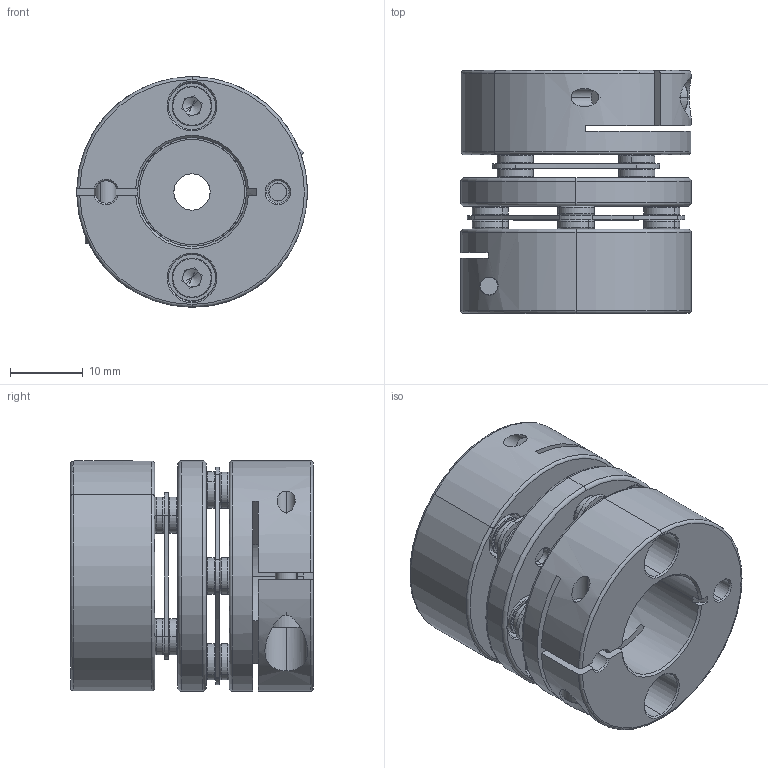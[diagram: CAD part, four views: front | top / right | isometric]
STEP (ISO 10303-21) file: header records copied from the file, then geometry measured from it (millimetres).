
FILE_DESCRIPTION (( 'STEP AP203' ), '1' );
FILE_NAME ('SDWA-31C-5X15_203.STEP', '2013-01-11T00:20:54', ( '' ), ( '' ), 'SwSTEP 2.0', 'SolidWorks 2012', '' );
FILE_SCHEMA (( 'CONFIG_CONTROL_DESIGN' ));
Length unit declared in the file: millimetre
Products named in the file (1): SDWA-31C-5X15_203
Bounding box: 31.8 x 33.5 x 31.8 mm (x, y, z)
Volume: 16747.9 mm3; surface area: 12905.8 mm2
Topology: 1 solids, 33 shells, 781 faces, 1788 edges, 1067 vertices
Faces by surface type: cylinder 257, plane 223, cone 163, torus 138
Entity records: 22538 total; most frequent: DIRECTION 4291, CARTESIAN_POINT 4089, ORIENTED_EDGE 3536, AXIS2_PLACEMENT_3D 1785, EDGE_CURVE 1768, VERTEX_POINT 1067, CIRCLE 1003, EDGE_LOOP 903
